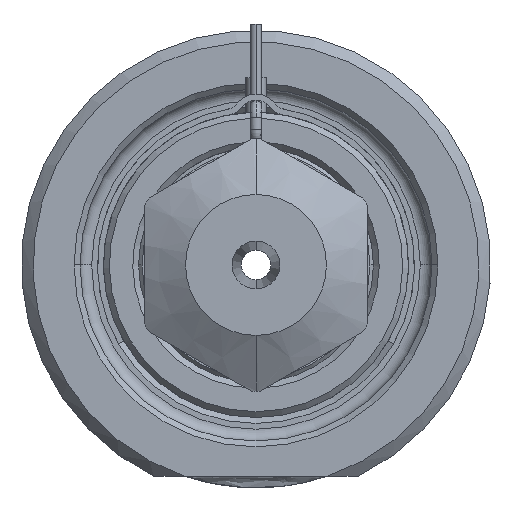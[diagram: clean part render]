
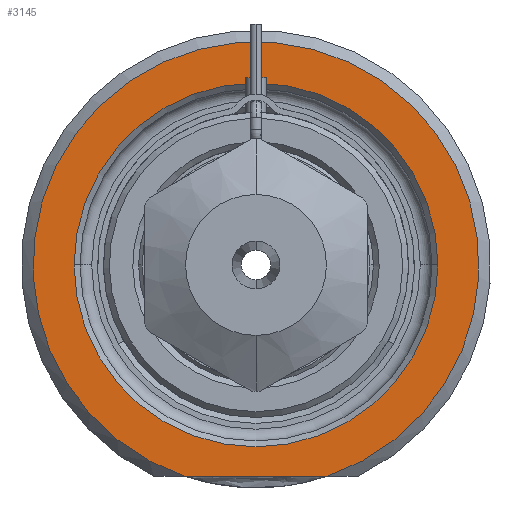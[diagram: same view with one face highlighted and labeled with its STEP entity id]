
A CAD part, front view. The second image highlights one B-rep face of the part: STEP entity #3145.
In plain terms, the highlighted planar face has unit normal (0, -1, 0).
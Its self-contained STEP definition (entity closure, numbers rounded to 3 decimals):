
#1=DIRECTION('',(1.,0.,0.));
#2=VECTOR('',#1,12.166);
#3=CARTESIAN_POINT('',(-6.083,0.,-18.));
#4=LINE('',#3,#2);
#5=CARTESIAN_POINT('',(0.,0.,0.));
#6=DIRECTION('',(0.,1.,0.));
#7=DIRECTION('',(-1.,0.,0.));
#8=AXIS2_PLACEMENT_3D('',#5,#6,#7);
#10=CARTESIAN_POINT('',(0.,0.,0.));
#11=DIRECTION('',(0.,1.,0.));
#12=DIRECTION('',(1.,0.,0.));
#13=AXIS2_PLACEMENT_3D('',#10,#11,#12);
#264=CARTESIAN_POINT('',(0.,0.,0.));
#265=DIRECTION('',(0.,-1.,0.));
#266=DIRECTION('',(0.32,0.,-0.947));
#267=AXIS2_PLACEMENT_3D('',#264,#265,#266);
#2648=CARTESIAN_POINT('',(-15.5,0.,0.));
#2649=CARTESIAN_POINT('',(15.5,0.,0.));
#2650=VERTEX_POINT('',#2648);
#2651=VERTEX_POINT('',#2649);
#2706=CARTESIAN_POINT('',(-6.083,0.,-18.));
#2707=CARTESIAN_POINT('',(6.083,0.,-18.));
#2708=VERTEX_POINT('',#2706);
#2709=VERTEX_POINT('',#2707);
#3128=CARTESIAN_POINT('',(0.,0.,0.));
#3129=DIRECTION('',(0.,-1.,0.));
#3130=DIRECTION('',(1.,0.,0.));
#3131=AXIS2_PLACEMENT_3D('',#3128,#3129,#3130);
#3132=PLANE('',#3131);
#3134=ORIENTED_EDGE('',*,*,#3133,.F.);
#3136=ORIENTED_EDGE('',*,*,#3135,.F.);
#3137=EDGE_LOOP('',(#3134,#3136));
#3138=FACE_OUTER_BOUND('',#3137,.F.);
#3140=ORIENTED_EDGE('',*,*,#3139,.F.);
#3142=ORIENTED_EDGE('',*,*,#3141,.F.);
#3143=EDGE_LOOP('',(#3140,#3142));
#3144=FACE_BOUND('',#3143,.F.);
#3145=ADVANCED_FACE('',(#3138,#3144),#3132,.T.);
#9=CIRCLE('',#8,15.5);
#14=CIRCLE('',#13,15.5);
#268=CIRCLE('',#267,19.);
#3133=EDGE_CURVE('',#2708,#2709,#4,.T.);
#3135=EDGE_CURVE('',#2709,#2708,#268,.T.);
#3139=EDGE_CURVE('',#2650,#2651,#9,.T.);
#3141=EDGE_CURVE('',#2651,#2650,#14,.T.);
